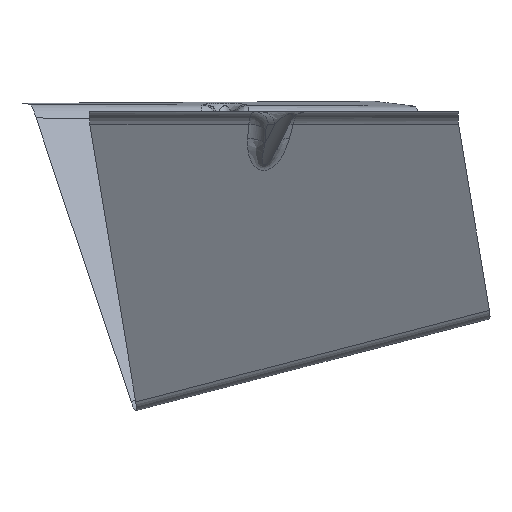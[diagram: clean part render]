
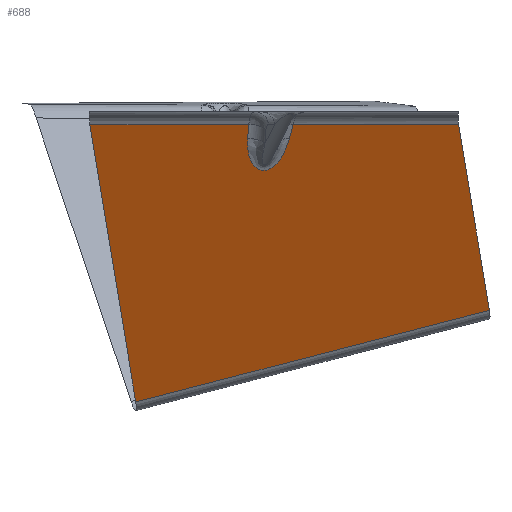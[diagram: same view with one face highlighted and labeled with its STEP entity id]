
A CAD part, left-side view. The second image highlights one B-rep face of the part: STEP entity #688.
In plain terms, the highlighted planar face has unit normal (-0.83, -0.249, -0.5).
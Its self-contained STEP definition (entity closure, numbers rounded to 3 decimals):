
#254=CARTESIAN_POINT('Vertex',(-83.937,6.896,-1.5)) ;
#277=CARTESIAN_POINT('Line Origine',(-67.313,8.849,-30.051)) ;
#281=CARTESIAN_POINT('Vertex',(-81.701,7.159,-5.34)) ;
#570=CARTESIAN_POINT('Control Point',(-78.305,-4.161,-5.341)) ;
#571=CARTESIAN_POINT('Control Point',(-78.105,-4.06,-5.724)) ;
#572=CARTESIAN_POINT('Control Point',(-77.907,-3.948,-6.107)) ;
#573=CARTESIAN_POINT('Control Point',(-77.713,-3.827,-6.49)) ;
#574=CARTESIAN_POINT('Control Point',(-77.337,-3.566,-7.243)) ;
#575=CARTESIAN_POINT('Control Point',(-76.978,-3.261,-7.99)) ;
#576=CARTESIAN_POINT('Control Point',(-76.805,-3.099,-8.358)) ;
#577=CARTESIAN_POINT('Control Point',(-76.485,-2.768,-9.055)) ;
#578=CARTESIAN_POINT('Control Point',(-76.184,-2.388,-9.743)) ;
#579=CARTESIAN_POINT('Control Point',(-76.045,-2.195,-10.069)) ;
#580=CARTESIAN_POINT('Control Point',(-75.799,-1.813,-10.668)) ;
#581=CARTESIAN_POINT('Control Point',(-75.576,-1.379,-11.252)) ;
#582=CARTESIAN_POINT('Control Point',(-75.48,-1.167,-11.518)) ;
#583=CARTESIAN_POINT('Control Point',(-75.317,-0.756,-11.992)) ;
#584=CARTESIAN_POINT('Control Point',(-75.184,-0.294,-12.444)) ;
#585=CARTESIAN_POINT('Control Point',(-75.131,-0.075,-12.64)) ;
#586=CARTESIAN_POINT('Control Point',(-75.053,0.338,-12.976)) ;
#587=CARTESIAN_POINT('Control Point',(-75.009,0.8,-13.277)) ;
#588=CARTESIAN_POINT('Control Point',(-74.998,1.011,-13.401)) ;
#589=CARTESIAN_POINT('Control Point',(-74.996,1.435,-13.617)) ;
#590=CARTESIAN_POINT('Control Point',(-75.036,1.897,-13.78)) ;
#591=CARTESIAN_POINT('Control Point',(-75.066,2.126,-13.843)) ;
#592=CARTESIAN_POINT('Control Point',(-75.138,2.514,-13.917)) ;
#593=CARTESIAN_POINT('Control Point',(-75.245,2.904,-13.934)) ;
#594=CARTESIAN_POINT('Control Point',(-75.293,3.058,-13.931)) ;
#595=CARTESIAN_POINT('Control Point',(-75.452,3.515,-13.894)) ;
#596=CARTESIAN_POINT('Control Point',(-75.649,3.936,-13.778)) ;
#597=CARTESIAN_POINT('Control Point',(-75.791,4.196,-13.67)) ;
#598=CARTESIAN_POINT('Control Point',(-76.059,4.622,-13.439)) ;
#599=CARTESIAN_POINT('Control Point',(-76.336,4.981,-13.157)) ;
#600=CARTESIAN_POINT('Control Point',(-76.462,5.131,-13.022)) ;
#601=CARTESIAN_POINT('Control Point',(-76.748,5.444,-12.704)) ;
#602=CARTESIAN_POINT('Control Point',(-77.034,5.708,-12.362)) ;
#603=CARTESIAN_POINT('Control Point',(-77.192,5.842,-12.165)) ;
#604=CARTESIAN_POINT('Control Point',(-77.553,6.123,-11.706)) ;
#605=CARTESIAN_POINT('Control Point',(-77.91,6.35,-11.228)) ;
#606=CARTESIAN_POINT('Control Point',(-78.108,6.463,-10.956)) ;
#607=CARTESIAN_POINT('Control Point',(-78.553,6.691,-10.33)) ;
#608=CARTESIAN_POINT('Control Point',(-78.99,6.861,-9.691)) ;
#609=CARTESIAN_POINT('Control Point',(-79.23,6.94,-9.331)) ;
#610=CARTESIAN_POINT('Control Point',(-79.889,7.121,-8.327)) ;
#611=CARTESIAN_POINT('Control Point',(-80.528,7.201,-7.308)) ;
#612=CARTESIAN_POINT('Control Point',(-80.927,7.218,-6.654)) ;
#613=CARTESIAN_POINT('Control Point',(-81.318,7.204,-5.998)) ;
#614=CARTESIAN_POINT('Control Point',(-81.701,7.159,-5.34)) ;
#615=CARTESIAN_POINT('Vertex',(-78.305,-4.161,-5.341)) ;
#633=CARTESIAN_POINT('Axis2P3D Location',(-37.585,-11.275,-69.355)) ;
#638=CARTESIAN_POINT('Line Origine',(-79.311,-4.666,-3.42)) ;
#642=CARTESIAN_POINT('Vertex',(-80.317,-5.172,-1.5)) ;
#645=CARTESIAN_POINT('Line Origine',(-90.4,28.439,-1.5)) ;
#649=CARTESIAN_POINT('Vertex',(-96.863,49.982,-1.5)) ;
#652=CARTESIAN_POINT('Line Origine',(-72.322,43.743,-39.108)) ;
#656=CARTESIAN_POINT('Vertex',(-47.781,37.503,-76.717)) ;
#659=CARTESIAN_POINT('Line Origine',(-40.9,-10.432,-64.274)) ;
#663=CARTESIAN_POINT('Vertex',(-34.02,-58.368,-51.832)) ;
#666=CARTESIAN_POINT('Line Origine',(-50.441,-54.193,-26.666)) ;
#670=CARTESIAN_POINT('Vertex',(-66.863,-50.018,-1.5)) ;
#673=CARTESIAN_POINT('Line Origine',(-73.59,-27.595,-1.5)) ;
#278=DIRECTION('Vector Direction',(0.502,0.059,-0.863)) ;
#634=DIRECTION('Axis2P3D Direction',(0.83,0.249,0.5)) ;
#635=DIRECTION('Axis2P3D XDirection',(0.541,-0.138,-0.83)) ;
#639=DIRECTION('Vector Direction',(-0.452,-0.227,0.863)) ;
#646=DIRECTION('Vector Direction',(0.287,-0.958,0.)) ;
#653=DIRECTION('Vector Direction',(0.541,-0.138,-0.83)) ;
#660=DIRECTION('Vector Direction',(0.138,-0.959,0.249)) ;
#667=DIRECTION('Vector Direction',(-0.541,0.138,0.83)) ;
#674=DIRECTION('Vector Direction',(0.287,-0.958,0.)) ;
#636=AXIS2_PLACEMENT_3D('Plane Axis2P3D',#633,#634,#635) ;
#679=ORIENTED_EDGE('',*,*,#644,.T.) ;
#680=ORIENTED_EDGE('',*,*,#617,.T.) ;
#681=ORIENTED_EDGE('',*,*,#283,.T.) ;
#682=ORIENTED_EDGE('',*,*,#651,.F.) ;
#683=ORIENTED_EDGE('',*,*,#658,.T.) ;
#684=ORIENTED_EDGE('',*,*,#665,.T.) ;
#685=ORIENTED_EDGE('',*,*,#672,.T.) ;
#686=ORIENTED_EDGE('',*,*,#677,.F.) ;
#279=VECTOR('Line Direction',#278,1.) ;
#640=VECTOR('Line Direction',#639,1.) ;
#647=VECTOR('Line Direction',#646,1.) ;
#654=VECTOR('Line Direction',#653,1.) ;
#661=VECTOR('Line Direction',#660,1.) ;
#668=VECTOR('Line Direction',#667,1.) ;
#675=VECTOR('Line Direction',#674,1.) ;
#688=ADVANCED_FACE('Extract.1',(#687),#637,.F.) ;
#569=B_SPLINE_CURVE_WITH_KNOTS('',5,(#570,#571,#572,#573,#574,#575,#576,#577,#578,#579,#580,#581,#582,#583,#584,#585,#586,#587,#588,#589,#590,#591,#592,#593,#594,#595,#596,#597,#598,#599,#600,#601,#602,#603,#604,#605,#606,#607,#608,#609,#610,#611,#612,#613,#614),.UNSPECIFIED.,.F.,.U.,(6,3,3,3,3,3,3,3,3,3,3,3,3,3,6),(21.159,24.123,27.,29.616,31.864,33.69,35.103,36.384,37.231,38.936,40.335,42.104,44.377,47.251,52.335),.UNSPECIFIED.) ;
#283=EDGE_CURVE('',#282,#255,#280,.F.) ;
#617=EDGE_CURVE('',#616,#282,#569,.T.) ;
#644=EDGE_CURVE('',#643,#616,#641,.F.) ;
#651=EDGE_CURVE('',#650,#255,#648,.T.) ;
#658=EDGE_CURVE('',#650,#657,#655,.T.) ;
#665=EDGE_CURVE('',#657,#664,#662,.T.) ;
#672=EDGE_CURVE('',#664,#671,#669,.T.) ;
#677=EDGE_CURVE('',#643,#671,#676,.T.) ;
#678=EDGE_LOOP('',(#679,#680,#681,#682,#683,#684,#685,#686)) ;
#687=FACE_OUTER_BOUND('',#678,.T.) ;
#280=LINE('Line',#277,#279) ;
#641=LINE('Line',#638,#640) ;
#648=LINE('Line',#645,#647) ;
#655=LINE('Line',#652,#654) ;
#662=LINE('Line',#659,#661) ;
#669=LINE('Line',#666,#668) ;
#676=LINE('Line',#673,#675) ;
#637=PLANE('',#636) ;
#255=VERTEX_POINT('',#254) ;
#282=VERTEX_POINT('',#281) ;
#616=VERTEX_POINT('',#615) ;
#643=VERTEX_POINT('',#642) ;
#650=VERTEX_POINT('',#649) ;
#657=VERTEX_POINT('',#656) ;
#664=VERTEX_POINT('',#663) ;
#671=VERTEX_POINT('',#670) ;
